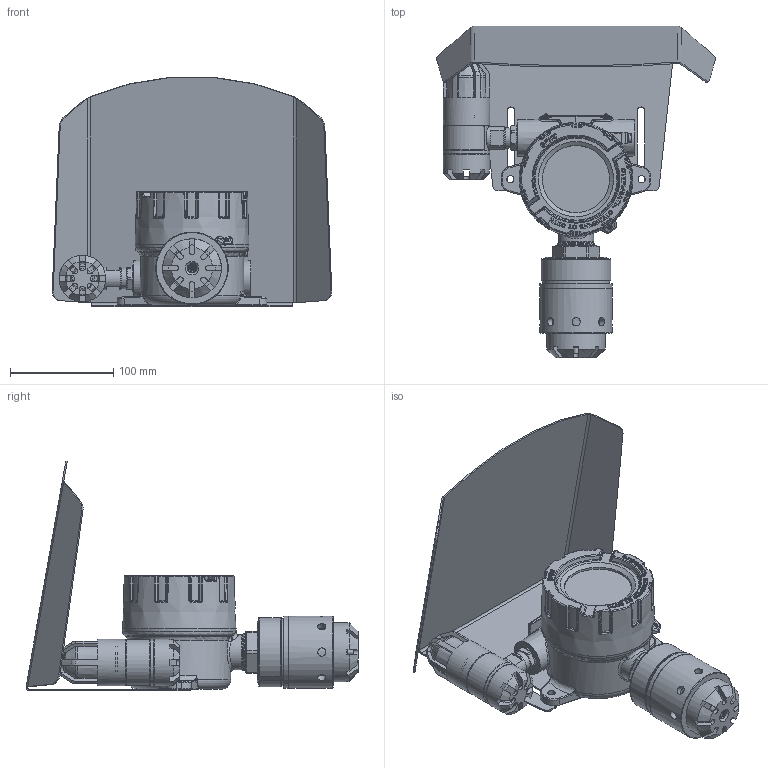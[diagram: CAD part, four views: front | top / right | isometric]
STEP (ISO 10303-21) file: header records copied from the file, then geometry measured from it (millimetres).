
FILE_DESCRIPTION(('STEP AP214'), '1');
FILE_NAME('Àäâàíò 2_äëÿ çàêàç÷èêîâ_ñ ÑÇÎ è êîçûðüêîì', '', ('UNSPECIFIED'), ('UNSPECIFIED'), 'ASCON STEP Converter 1.6', 'ASCON Math Kernel', '');
FILE_SCHEMA(('AUTOMOTIVE_DESIGN { 1 0 10303 214 3 1 1}'));
Length unit declared in the file: millimetre
Products named in the file (5): 橾迕.413216.007.01
Assembly tree (4 placements, depth 2):
  (unnamed)
    (unnamed)
    (unnamed)
    (unnamed)
    橾迕.413216.007.01
Bounding box: 270.61 x 321.34 x 222.54 mm (x, y, z)
Volume: 840812.5 mm3; surface area: 420483.6 mm2
Topology: 4 solids, 20 shells, 5803 faces, 15789 edges, 10271 vertices
Faces by surface type: plane 2192, cylinder 2147, extrusion 776, bspline 312, cone 164, torus 142, sphere 70
Full cylindrical faces by diameter (mm): 0.75 x12, 2 x8, 2.459 x10, 2.5 x2, 2.6 x1, 2.8 x1, 3 x1, 3.242 x2, 3.5 x2, 3.6 x2, 3.9 x1, 4 x1, 4.1 x1, 4.134 x2, 4.5 x1, 4.9 x1, 5 x2, 5.064 x1, 5.1 x1, 6 x1, 7 x1, 7.28 x1, 7.5 x1, 8 x8, 8.28 x1, 8.4 x1, 9 x1, 10 x2, 10.106 x1, 10.15 x1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
Entity records: 284876 total; most frequent: CARTESIAN_POINT 94578, ORIENTED_EDGE 30872, DIRECTION 27962, EDGE_CURVE 15436, VERTEX_POINT 10266, AXIS2_PLACEMENT_3D 9660, VECTOR 8642, LINE 7866
